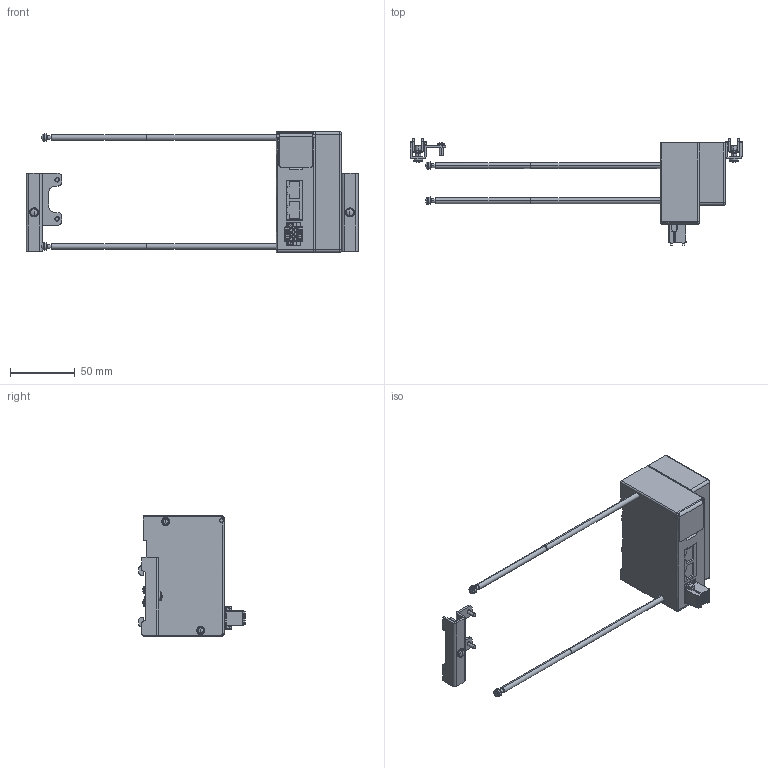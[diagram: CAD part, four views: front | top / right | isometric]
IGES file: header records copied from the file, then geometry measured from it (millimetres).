
Start section: ------------------------------------------------------------------------
Bounding box: 256 x 82.1 x 93 mm (x, y, z)
Volume: 269314.3 mm3; surface area: 50140 mm2
Topology: 3 solids, 3 shells, 983 faces, 2565 edges, 1641 vertices
Faces by surface type: bspline 983
